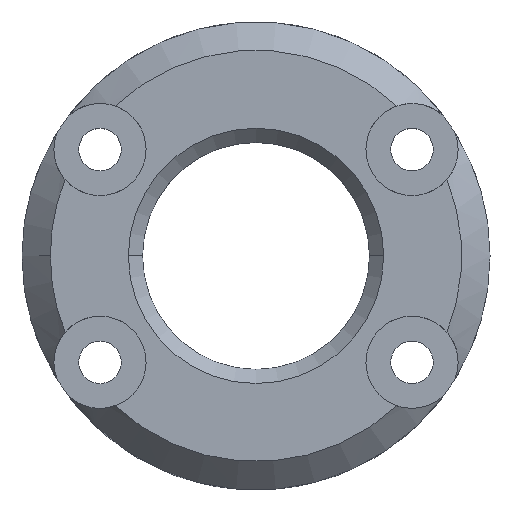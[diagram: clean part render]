
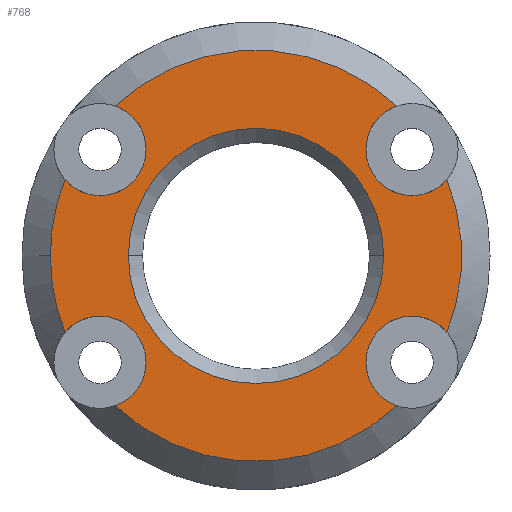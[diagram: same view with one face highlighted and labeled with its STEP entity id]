
A CAD part, top view. The second image highlights one B-rep face of the part: STEP entity #768.
In plain terms, the highlighted planar face has unit normal (0, 0, 1).
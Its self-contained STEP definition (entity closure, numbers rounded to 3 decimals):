
#10 = DIRECTION ( 'NONE',  ( 1., 0., 0. ) ) ;
#36 = AXIS2_PLACEMENT_3D ( 'NONE', #155, #1253, #385 ) ;
#39 = VERTEX_POINT ( 'NONE', #739 ) ;
#46 = DIRECTION ( 'NONE',  ( 1., 0., 0. ) ) ;
#48 = DIRECTION ( 'NONE',  ( 0., 0., 1. ) ) ;
#71 = CARTESIAN_POINT ( 'NONE',  ( 0., 0., 4.5 ) ) ;
#102 = DIRECTION ( 'NONE',  ( 0., 0., 1. ) ) ;
#106 = VERTEX_POINT ( 'NONE', #884 ) ;
#127 = AXIS2_PLACEMENT_3D ( 'NONE', #1259, #810, #596 ) ;
#138 = CIRCLE ( 'NONE', #336, 3.25 ) ;
#154 = EDGE_CURVE ( 'NONE', #965, #1199, #266, .T. ) ;
#155 = CARTESIAN_POINT ( 'NONE',  ( -11., 7.5, 4.5 ) ) ;
#158 = CIRCLE ( 'NONE', #391, 14.5 ) ;
#160 = ORIENTED_EDGE ( 'NONE', *, *, #936, .F. ) ;
#183 = DIRECTION ( 'NONE',  ( 0., 0., 1. ) ) ;
#192 = CARTESIAN_POINT ( 'NONE',  ( 11., -7.5, 4.5 ) ) ;
#201 = AXIS2_PLACEMENT_3D ( 'NONE', #646, #755, #205 ) ;
#205 = DIRECTION ( 'NONE',  ( 1., 0., 0. ) ) ;
#216 = ORIENTED_EDGE ( 'NONE', *, *, #540, .F. ) ;
#225 = DIRECTION ( 'NONE',  ( 1., 0., 0. ) ) ;
#239 = CARTESIAN_POINT ( 'NONE',  ( 11., -7.5, 4.5 ) ) ;
#240 = ORIENTED_EDGE ( 'NONE', *, *, #1066, .F. ) ;
#266 = CIRCLE ( 'NONE', #476, 3.25 ) ;
#289 = EDGE_CURVE ( 'NONE', #575, #901, #702, .T. ) ;
#312 = CARTESIAN_POINT ( 'NONE',  ( -9.928, 10.568, 4.5 ) ) ;
#326 = DIRECTION ( 'NONE',  ( 1., 0., 0. ) ) ;
#336 = AXIS2_PLACEMENT_3D ( 'NONE', #388, #1152, #622 ) ;
#356 = CIRCLE ( 'NONE', #823, 14.5 ) ;
#377 = CIRCLE ( 'NONE', #1279, 3.25 ) ;
#381 = DIRECTION ( 'NONE',  ( 1., 0., 0. ) ) ;
#382 = ORIENTED_EDGE ( 'NONE', *, *, #900, .T. ) ;
#385 = DIRECTION ( 'NONE',  ( 1., 0., 0. ) ) ;
#388 = CARTESIAN_POINT ( 'NONE',  ( -11., -7.5, 4.5 ) ) ;
#391 = AXIS2_PLACEMENT_3D ( 'NONE', #1326, #470, #225 ) ;
#405 = VERTEX_POINT ( 'NONE', #740 ) ;
#424 = DIRECTION ( 'NONE',  ( 1., 0., 0. ) ) ;
#426 = CARTESIAN_POINT ( 'NONE',  ( 0., 0., 4.5 ) ) ;
#434 = ORIENTED_EDGE ( 'NONE', *, *, #1158, .T. ) ;
#470 = DIRECTION ( 'NONE',  ( 0., 0., 1. ) ) ;
#473 = EDGE_CURVE ( 'NONE', #106, #721, #913, .T. ) ;
#476 = AXIS2_PLACEMENT_3D ( 'NONE', #1203, #676, #555 ) ;
#487 = VERTEX_POINT ( 'NONE', #312 ) ;
#510 = FACE_BOUND ( 'NONE', #1143, .T. ) ;
#511 = CARTESIAN_POINT ( 'NONE',  ( 13.464, 5.381, 4.5 ) ) ;
#515 = VERTEX_POINT ( 'NONE', #526 ) ;
#526 = CARTESIAN_POINT ( 'NONE',  ( 9.928, -10.568, 4.5 ) ) ;
#537 = ORIENTED_EDGE ( 'NONE', *, *, #795, .F. ) ;
#540 = EDGE_CURVE ( 'NONE', #575, #405, #377, .T. ) ;
#544 = CIRCLE ( 'NONE', #586, 3.25 ) ;
#552 = EDGE_CURVE ( 'NONE', #1164, #515, #1209, .T. ) ;
#554 = ORIENTED_EDGE ( 'NONE', *, *, #154, .F. ) ;
#555 = DIRECTION ( 'NONE',  ( 1., 0., 0. ) ) ;
#559 = EDGE_CURVE ( 'NONE', #39, #1254, #933, .T. ) ;
#565 = DIRECTION ( 'NONE',  ( 0., 0., 1. ) ) ;
#575 = VERTEX_POINT ( 'NONE', #1219 ) ;
#586 = AXIS2_PLACEMENT_3D ( 'NONE', #1195, #102, #1184 ) ;
#590 = CIRCLE ( 'NONE', #36, 3.25 ) ;
#596 = DIRECTION ( 'NONE',  ( 1., 0., 0. ) ) ;
#617 = VERTEX_POINT ( 'NONE', #666 ) ;
#622 = DIRECTION ( 'NONE',  ( 1., 0., 0. ) ) ;
#644 = CIRCLE ( 'NONE', #1167, 9. ) ;
#646 = CARTESIAN_POINT ( 'NONE',  ( 0., 0., 4.5 ) ) ;
#661 = DIRECTION ( 'NONE',  ( 1., 0., 0. ) ) ;
#666 = CARTESIAN_POINT ( 'NONE',  ( -13.464, -5.381, 4.5 ) ) ;
#676 = DIRECTION ( 'NONE',  ( 0., 0., 1. ) ) ;
#686 = FACE_OUTER_BOUND ( 'NONE', #819, .T. ) ;
#702 = CIRCLE ( 'NONE', #1231, 14.5 ) ;
#721 = VERTEX_POINT ( 'NONE', #802 ) ;
#735 = CARTESIAN_POINT ( 'NONE',  ( -14.5, 0., 4.5 ) ) ;
#739 = CARTESIAN_POINT ( 'NONE',  ( -13.464, 5.381, 4.5 ) ) ;
#740 = CARTESIAN_POINT ( 'NONE',  ( 7.75, -7.5, 4.5 ) ) ;
#754 = VERTEX_POINT ( 'NONE', #1366 ) ;
#755 = DIRECTION ( 'NONE',  ( 0., 0., 1. ) ) ;
#768 = ADVANCED_FACE ( 'NONE', ( #510, #686 ), #938, .T. ) ;
#774 = DIRECTION ( 'NONE',  ( 0., 0., 1. ) ) ;
#785 = EDGE_CURVE ( 'NONE', #721, #106, #644, .T. ) ;
#795 = EDGE_CURVE ( 'NONE', #754, #617, #138, .T. ) ;
#802 = CARTESIAN_POINT ( 'NONE',  ( -9., 0., 4.5 ) ) ;
#809 = CARTESIAN_POINT ( 'NONE',  ( 0., 0., 4.5 ) ) ;
#810 = DIRECTION ( 'NONE',  ( 0., 0., 1. ) ) ;
#819 = EDGE_LOOP ( 'NONE', ( #216, #852, #1420, #554, #1197, #1399, #1181, #434, #382, #537, #240, #871, #160 ) ) ;
#823 = AXIS2_PLACEMENT_3D ( 'NONE', #71, #950, #424 ) ;
#830 = AXIS2_PLACEMENT_3D ( 'NONE', #426, #1401, #1309 ) ;
#852 = ORIENTED_EDGE ( 'NONE', *, *, #289, .T. ) ;
#867 = CARTESIAN_POINT ( 'NONE',  ( 9.928, 10.568, 4.5 ) ) ;
#871 = ORIENTED_EDGE ( 'NONE', *, *, #552, .T. ) ;
#882 = DIRECTION ( 'NONE',  ( 0., 0., 1. ) ) ;
#884 = CARTESIAN_POINT ( 'NONE',  ( 9., 0., 4.5 ) ) ;
#888 = VERTEX_POINT ( 'NONE', #735 ) ;
#893 = CARTESIAN_POINT ( 'NONE',  ( -11., 7.5, 4.5 ) ) ;
#900 = EDGE_CURVE ( 'NONE', #888, #617, #356, .T. ) ;
#901 = VERTEX_POINT ( 'NONE', #511 ) ;
#913 = CIRCLE ( 'NONE', #830, 9. ) ;
#933 = CIRCLE ( 'NONE', #1097, 3.25 ) ;
#934 = CARTESIAN_POINT ( 'NONE',  ( 0., 0., 4.5 ) ) ;
#936 = EDGE_CURVE ( 'NONE', #405, #515, #1117, .T. ) ;
#938 = PLANE ( 'NONE',  #1398 ) ;
#950 = DIRECTION ( 'NONE',  ( 0., 0., 1. ) ) ;
#965 = VERTEX_POINT ( 'NONE', #867 ) ;
#994 = EDGE_CURVE ( 'NONE', #965, #487, #1028, .T. ) ;
#1004 = CARTESIAN_POINT ( 'NONE',  ( 0., 0., 4.5 ) ) ;
#1018 = AXIS2_PLACEMENT_3D ( 'NONE', #192, #183, #326 ) ;
#1025 = DIRECTION ( 'NONE',  ( 0., 0., 1. ) ) ;
#1027 = DIRECTION ( 'NONE',  ( 0., 0., -1. ) ) ;
#1028 = CIRCLE ( 'NONE', #201, 14.5 ) ;
#1066 = EDGE_CURVE ( 'NONE', #1164, #754, #544, .T. ) ;
#1068 = AXIS2_PLACEMENT_3D ( 'NONE', #1004, #774, #10 ) ;
#1082 = DIRECTION ( 'NONE',  ( 1., 0., 0. ) ) ;
#1097 = AXIS2_PLACEMENT_3D ( 'NONE', #893, #565, #1082 ) ;
#1108 = CARTESIAN_POINT ( 'NONE',  ( -9.928, -10.568, 4.5 ) ) ;
#1117 = CIRCLE ( 'NONE', #1018, 3.25 ) ;
#1124 = ORIENTED_EDGE ( 'NONE', *, *, #473, .T. ) ;
#1135 = CIRCLE ( 'NONE', #127, 3.25 ) ;
#1142 = CARTESIAN_POINT ( 'NONE',  ( 0., 0., 4.5 ) ) ;
#1143 = EDGE_LOOP ( 'NONE', ( #1124, #1351 ) ) ;
#1144 = DIRECTION ( 'NONE',  ( 1., 0., 0. ) ) ;
#1152 = DIRECTION ( 'NONE',  ( 0., 0., 1. ) ) ;
#1158 = EDGE_CURVE ( 'NONE', #39, #888, #158, .T. ) ;
#1164 = VERTEX_POINT ( 'NONE', #1108 ) ;
#1167 = AXIS2_PLACEMENT_3D ( 'NONE', #934, #1027, #381 ) ;
#1181 = ORIENTED_EDGE ( 'NONE', *, *, #559, .F. ) ;
#1184 = DIRECTION ( 'NONE',  ( 1., 0., 0. ) ) ;
#1195 = CARTESIAN_POINT ( 'NONE',  ( -11., -7.5, 4.5 ) ) ;
#1197 = ORIENTED_EDGE ( 'NONE', *, *, #994, .T. ) ;
#1199 = VERTEX_POINT ( 'NONE', #1224 ) ;
#1203 = CARTESIAN_POINT ( 'NONE',  ( 11., 7.5, 4.5 ) ) ;
#1209 = CIRCLE ( 'NONE', #1068, 14.5 ) ;
#1219 = CARTESIAN_POINT ( 'NONE',  ( 13.464, -5.381, 4.5 ) ) ;
#1224 = CARTESIAN_POINT ( 'NONE',  ( 7.75, 7.5, 4.5 ) ) ;
#1228 = CARTESIAN_POINT ( 'NONE',  ( -7.75, 7.5, 4.5 ) ) ;
#1231 = AXIS2_PLACEMENT_3D ( 'NONE', #809, #48, #1144 ) ;
#1253 = DIRECTION ( 'NONE',  ( 0., 0., 1. ) ) ;
#1254 = VERTEX_POINT ( 'NONE', #1228 ) ;
#1259 = CARTESIAN_POINT ( 'NONE',  ( 11., 7.5, 4.5 ) ) ;
#1279 = AXIS2_PLACEMENT_3D ( 'NONE', #239, #882, #661 ) ;
#1309 = DIRECTION ( 'NONE',  ( 1., 0., 0. ) ) ;
#1326 = CARTESIAN_POINT ( 'NONE',  ( 0., 0., 4.5 ) ) ;
#1351 = ORIENTED_EDGE ( 'NONE', *, *, #785, .T. ) ;
#1366 = CARTESIAN_POINT ( 'NONE',  ( -7.75, -7.5, 4.5 ) ) ;
#1375 = EDGE_CURVE ( 'NONE', #1254, #487, #590, .T. ) ;
#1389 = EDGE_CURVE ( 'NONE', #1199, #901, #1135, .T. ) ;
#1398 = AXIS2_PLACEMENT_3D ( 'NONE', #1142, #1025, #46 ) ;
#1399 = ORIENTED_EDGE ( 'NONE', *, *, #1375, .F. ) ;
#1401 = DIRECTION ( 'NONE',  ( 0., 0., -1. ) ) ;
#1420 = ORIENTED_EDGE ( 'NONE', *, *, #1389, .F. ) ;
